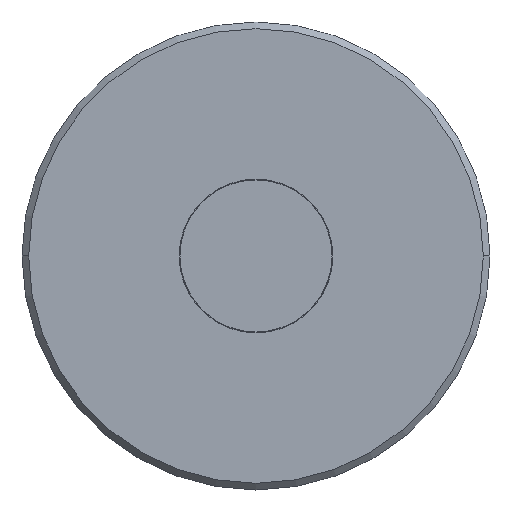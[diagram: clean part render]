
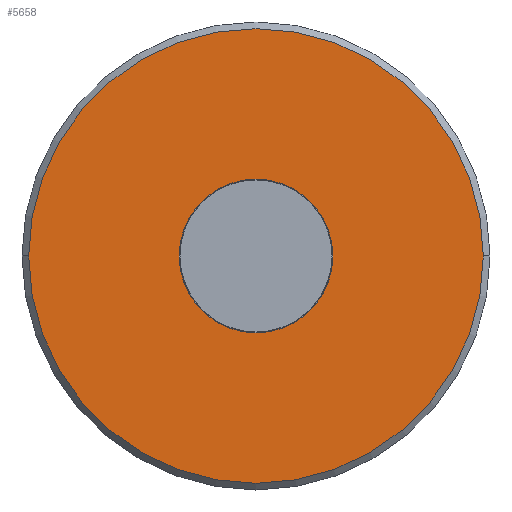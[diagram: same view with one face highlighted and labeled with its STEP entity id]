
A CAD part, top view. The second image highlights one B-rep face of the part: STEP entity #5658.
In plain terms, the highlighted planar face has unit normal (0, 0, 1).
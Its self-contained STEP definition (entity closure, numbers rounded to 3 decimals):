
#5658=ADVANCED_FACE('',(#6650,#6651),#6419,.T.);
#6419=PLANE('',#17155);
#6650=FACE_BOUND('',#6712,.T.);
#6651=FACE_BOUND('',#6713,.T.);
#6712=EDGE_LOOP('',(#8753,#8754));
#6713=EDGE_LOOP('',(#8755,#8756));
#8017=CIRCLE('',#17138,11.5);
#8018=CIRCLE('',#17140,34.);
#8021=CIRCLE('',#17153,11.5);
#8022=CIRCLE('',#17154,34.);
#8753=ORIENTED_EDGE('',*,*,#13778,.T.);
#8754=ORIENTED_EDGE('',*,*,#13750,.T.);
#8755=ORIENTED_EDGE('',*,*,#13779,.T.);
#8756=ORIENTED_EDGE('',*,*,#13751,.T.);
#12569=VERTEX_POINT('',#22244);
#12572=VERTEX_POINT('',#22249);
#12573=VERTEX_POINT('',#22253);
#12574=VERTEX_POINT('',#22254);
#13750=EDGE_CURVE('',#12569,#12572,#8017,.T.);
#13751=EDGE_CURVE('',#12573,#12574,#8018,.T.);
#13778=EDGE_CURVE('',#12572,#12569,#8021,.T.);
#13779=EDGE_CURVE('',#12574,#12573,#8022,.T.);
#17138=AXIS2_PLACEMENT_3D('',#22250,#18432,#18433);
#17140=AXIS2_PLACEMENT_3D('',#22252,#18436,#18437);
#17153=AXIS2_PLACEMENT_3D('',#22389,#18474,#18475);
#17154=AXIS2_PLACEMENT_3D('',#22390,#18476,#18477);
#17155=AXIS2_PLACEMENT_3D('',#22391,#18478,#18479);
#18432=DIRECTION('',(0.,0.,-1.));
#18433=DIRECTION('',(-1.,0.,0.));
#18436=DIRECTION('',(0.,0.,1.));
#18437=DIRECTION('',(-1.,0.,0.));
#18474=DIRECTION('',(0.,0.,-1.));
#18475=DIRECTION('',(-1.,0.,0.));
#18476=DIRECTION('',(0.,0.,1.));
#18477=DIRECTION('',(-1.,0.,0.));
#18478=DIRECTION('',(0.,0.,1.));
#18479=DIRECTION('',(-1.,0.,0.));
#22244=CARTESIAN_POINT('',(13.016,6.147,9.585));
#22249=CARTESIAN_POINT('',(-9.984,6.147,9.585));
#22250=CARTESIAN_POINT('',(1.516,6.147,9.585));
#22252=CARTESIAN_POINT('',(1.516,6.147,9.585));
#22253=CARTESIAN_POINT('',(35.516,6.147,9.585));
#22254=CARTESIAN_POINT('',(-32.484,6.147,9.585));
#22389=CARTESIAN_POINT('',(1.516,6.147,9.585));
#22390=CARTESIAN_POINT('',(1.516,6.147,9.585));
#22391=CARTESIAN_POINT('',(1.516,6.147,9.585));
